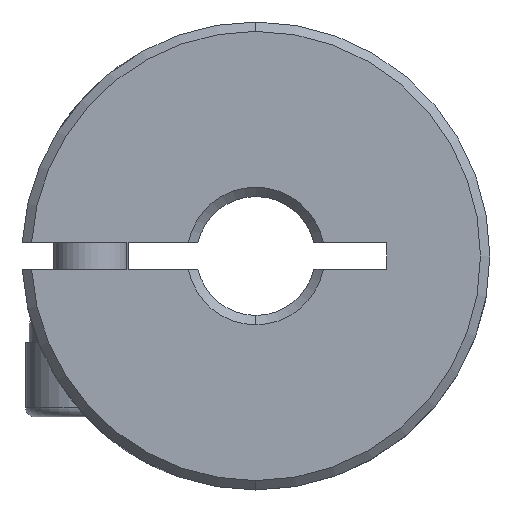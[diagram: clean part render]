
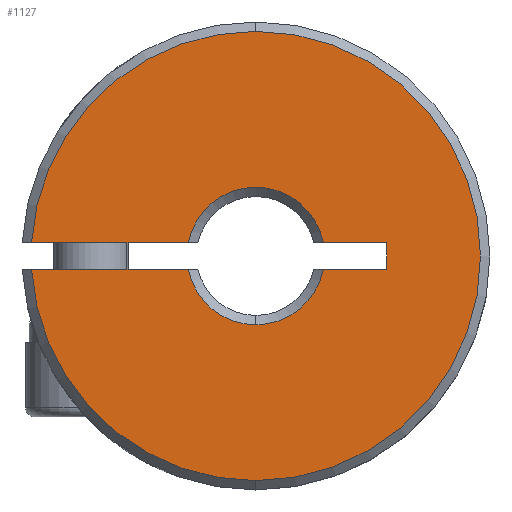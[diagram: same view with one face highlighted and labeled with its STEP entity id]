
A CAD part, front view. The second image highlights one B-rep face of the part: STEP entity #1127.
In plain terms, the highlighted planar face has unit normal (0, -1, 0).
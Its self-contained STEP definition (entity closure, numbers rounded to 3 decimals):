
#5 = PLANE ( 'NONE',  #1323 ) ;
#78 = DIRECTION ( 'NONE',  ( 0., 0., 1. ) ) ;
#86 = VECTOR ( 'NONE', #4246, 1000. ) ;
#168 = DIRECTION ( 'NONE',  ( 0., 1., 0. ) ) ;
#191 = LINE ( 'NONE', #5635, #872 ) ;
#213 = CIRCLE ( 'NONE', #1715, 12. ) ;
#218 = EDGE_CURVE ( 'NONE', #6059, #3152, #213, .T. ) ;
#244 = LINE ( 'NONE', #258, #1067 ) ;
#258 = CARTESIAN_POINT ( 'NONE',  ( -12.75, 0.25, -0.7 ) ) ;
#326 = CARTESIAN_POINT ( 'NONE',  ( 0., 0.25, 0. ) ) ;
#415 = AXIS2_PLACEMENT_3D ( 'NONE', #3536, #4425, #2047 ) ;
#521 = CARTESIAN_POINT ( 'NONE',  ( 0., 0.25, 0. ) ) ;
#594 = CARTESIAN_POINT ( 'NONE',  ( 0., 0.25, -12. ) ) ;
#644 = CARTESIAN_POINT ( 'NONE',  ( -11.98, 0.25, -0.7 ) ) ;
#773 = DIRECTION ( 'NONE',  ( 0., 0., 1. ) ) ;
#820 = CARTESIAN_POINT ( 'NONE',  ( 7., 0.25, -0.7 ) ) ;
#831 = ORIENTED_EDGE ( 'NONE', *, *, #218, .T. ) ;
#859 = CARTESIAN_POINT ( 'NONE',  ( 0., 0.25, 12. ) ) ;
#872 = VECTOR ( 'NONE', #1284, 1000. ) ;
#1067 = VECTOR ( 'NONE', #1132, 1000. ) ;
#1084 = CIRCLE ( 'NONE', #2750, 3.675 ) ;
#1127 = ADVANCED_FACE ( 'NONE', ( #2102 ), #5, .F. ) ;
#1132 = DIRECTION ( 'NONE',  ( 1., 0., 0. ) ) ;
#1266 = ORIENTED_EDGE ( 'NONE', *, *, #5409, .T. ) ;
#1283 = EDGE_CURVE ( 'NONE', #2119, #3901, #5318, .T. ) ;
#1284 = DIRECTION ( 'NONE',  ( -1., 0., 0. ) ) ;
#1323 = AXIS2_PLACEMENT_3D ( 'NONE', #3382, #1954, #3890 ) ;
#1406 = CIRCLE ( 'NONE', #4128, 12. ) ;
#1488 = DIRECTION ( 'NONE',  ( 0., 0., 1. ) ) ;
#1575 = ORIENTED_EDGE ( 'NONE', *, *, #1283, .F. ) ;
#1612 = ORIENTED_EDGE ( 'NONE', *, *, #4865, .F. ) ;
#1712 = CARTESIAN_POINT ( 'NONE',  ( 0., 0.25, 0. ) ) ;
#1715 = AXIS2_PLACEMENT_3D ( 'NONE', #326, #5752, #773 ) ;
#1728 = EDGE_CURVE ( 'NONE', #4807, #3901, #4510, .T. ) ;
#1757 = DIRECTION ( 'NONE',  ( 0., 0., 1. ) ) ;
#1759 = VERTEX_POINT ( 'NONE', #2984 ) ;
#1784 = CARTESIAN_POINT ( 'NONE',  ( 7., 0.25, 0.7 ) ) ;
#1867 = VECTOR ( 'NONE', #2584, 1000. ) ;
#1954 = DIRECTION ( 'NONE',  ( 0., 1., 0. ) ) ;
#1965 = EDGE_CURVE ( 'NONE', #4807, #4419, #191, .T. ) ;
#2040 = CARTESIAN_POINT ( 'NONE',  ( 0., 0.25, 0. ) ) ;
#2047 = DIRECTION ( 'NONE',  ( 0., 0., 1. ) ) ;
#2102 = FACE_OUTER_BOUND ( 'NONE', #4478, .T. ) ;
#2119 = VERTEX_POINT ( 'NONE', #3734 ) ;
#2256 = EDGE_CURVE ( 'NONE', #3103, #3637, #1084, .T. ) ;
#2261 = DIRECTION ( 'NONE',  ( 0., -1., 0. ) ) ;
#2402 = ORIENTED_EDGE ( 'NONE', *, *, #1965, .F. ) ;
#2584 = DIRECTION ( 'NONE',  ( -1., 0., 0. ) ) ;
#2750 = AXIS2_PLACEMENT_3D ( 'NONE', #2040, #168, #5502 ) ;
#2984 = CARTESIAN_POINT ( 'NONE',  ( 3.608, 0.25, -0.7 ) ) ;
#3024 = EDGE_CURVE ( 'NONE', #5817, #4419, #1406, .T. ) ;
#3103 = VERTEX_POINT ( 'NONE', #4449 ) ;
#3147 = DIRECTION ( 'NONE',  ( 0., 0., 1. ) ) ;
#3152 = VERTEX_POINT ( 'NONE', #594 ) ;
#3353 = ORIENTED_EDGE ( 'NONE', *, *, #2256, .T. ) ;
#3382 = CARTESIAN_POINT ( 'NONE',  ( -500., 0.25, -13.609 ) ) ;
#3536 = CARTESIAN_POINT ( 'NONE',  ( 0., 0.25, 0. ) ) ;
#3637 = VERTEX_POINT ( 'NONE', #5430 ) ;
#3638 = CIRCLE ( 'NONE', #3849, 3.675 ) ;
#3734 = CARTESIAN_POINT ( 'NONE',  ( 7., 0.25, 0.7 ) ) ;
#3849 = AXIS2_PLACEMENT_3D ( 'NONE', #521, #4388, #1488 ) ;
#3890 = DIRECTION ( 'NONE',  ( 0., 0., 1. ) ) ;
#3901 = VERTEX_POINT ( 'NONE', #6177 ) ;
#3912 = DIRECTION ( 'NONE',  ( 0., 1., 0. ) ) ;
#4128 = AXIS2_PLACEMENT_3D ( 'NONE', #1712, #2261, #3147 ) ;
#4188 = VECTOR ( 'NONE', #1757, 1000. ) ;
#4246 = DIRECTION ( 'NONE',  ( 1., 0., 0. ) ) ;
#4289 = CARTESIAN_POINT ( 'NONE',  ( -12.75, 0.25, -0.7 ) ) ;
#4360 = VERTEX_POINT ( 'NONE', #820 ) ;
#4388 = DIRECTION ( 'NONE',  ( 0., 1., 0. ) ) ;
#4419 = VERTEX_POINT ( 'NONE', #5177 ) ;
#4425 = DIRECTION ( 'NONE',  ( 0., -1., 0. ) ) ;
#4449 = CARTESIAN_POINT ( 'NONE',  ( 0., 0.25, -3.675 ) ) ;
#4478 = EDGE_LOOP ( 'NONE', ( #5504, #1266, #3353, #4638, #831, #6203, #4737, #2402, #5669, #1575, #1612 ) ) ;
#4510 = CIRCLE ( 'NONE', #5425, 3.675 ) ;
#4638 = ORIENTED_EDGE ( 'NONE', *, *, #5601, .F. ) ;
#4700 = LINE ( 'NONE', #4289, #86 ) ;
#4737 = ORIENTED_EDGE ( 'NONE', *, *, #3024, .T. ) ;
#4807 = VERTEX_POINT ( 'NONE', #6218 ) ;
#4865 = EDGE_CURVE ( 'NONE', #4360, #2119, #5520, .T. ) ;
#5127 = CIRCLE ( 'NONE', #415, 12. ) ;
#5177 = CARTESIAN_POINT ( 'NONE',  ( -11.98, 0.25, 0.7 ) ) ;
#5318 = LINE ( 'NONE', #5531, #1867 ) ;
#5409 = EDGE_CURVE ( 'NONE', #1759, #3103, #3638, .T. ) ;
#5425 = AXIS2_PLACEMENT_3D ( 'NONE', #5468, #3912, #78 ) ;
#5430 = CARTESIAN_POINT ( 'NONE',  ( -3.608, 0.25, -0.7 ) ) ;
#5468 = CARTESIAN_POINT ( 'NONE',  ( 0., 0.25, 0. ) ) ;
#5502 = DIRECTION ( 'NONE',  ( 0., 0., 1. ) ) ;
#5504 = ORIENTED_EDGE ( 'NONE', *, *, #6261, .F. ) ;
#5520 = LINE ( 'NONE', #1784, #4188 ) ;
#5531 = CARTESIAN_POINT ( 'NONE',  ( -12.75, 0.25, 0.7 ) ) ;
#5558 = EDGE_CURVE ( 'NONE', #3152, #5817, #5127, .T. ) ;
#5601 = EDGE_CURVE ( 'NONE', #6059, #3637, #244, .T. ) ;
#5635 = CARTESIAN_POINT ( 'NONE',  ( -12.75, 0.25, 0.7 ) ) ;
#5669 = ORIENTED_EDGE ( 'NONE', *, *, #1728, .T. ) ;
#5752 = DIRECTION ( 'NONE',  ( 0., -1., 0. ) ) ;
#5817 = VERTEX_POINT ( 'NONE', #859 ) ;
#6059 = VERTEX_POINT ( 'NONE', #644 ) ;
#6177 = CARTESIAN_POINT ( 'NONE',  ( 3.608, 0.25, 0.7 ) ) ;
#6203 = ORIENTED_EDGE ( 'NONE', *, *, #5558, .T. ) ;
#6218 = CARTESIAN_POINT ( 'NONE',  ( -3.608, 0.25, 0.7 ) ) ;
#6261 = EDGE_CURVE ( 'NONE', #1759, #4360, #4700, .T. ) ;
